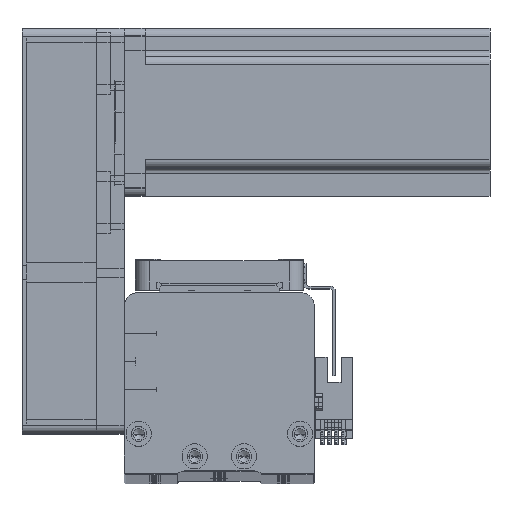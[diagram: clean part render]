
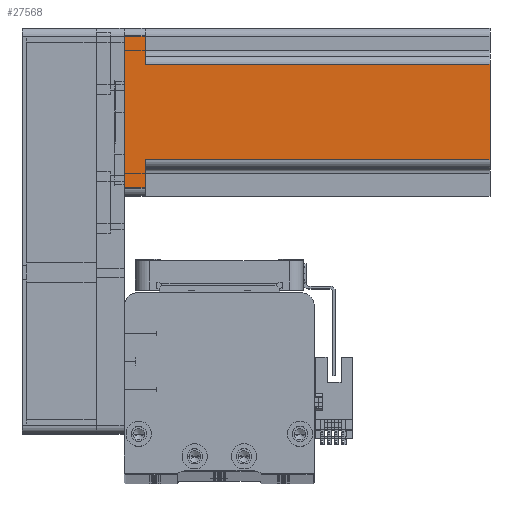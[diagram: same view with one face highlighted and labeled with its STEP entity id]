
A CAD part, top view. The second image highlights one B-rep face of the part: STEP entity #27568.
In plain terms, the highlighted planar face has unit normal (0, 0, 1) as drawn and (0, 1, 0) by its records, which use the part's own axes.
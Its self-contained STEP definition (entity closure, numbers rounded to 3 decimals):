
#301 = DIRECTION ( 'NONE',  ( 0., -1., 0. ) ) ;
#1090 = ORIENTED_EDGE ( 'NONE', *, *, #31192, .T. ) ;
#1931 = EDGE_CURVE ( 'NONE', #50247, #53236, #3249, .T. ) ;
#1942 = DIRECTION ( 'NONE',  ( 0., 0., -1. ) ) ;
#2790 = CARTESIAN_POINT ( 'NONE',  ( 17., 30., 7.5 ) ) ;
#2945 = VERTEX_POINT ( 'NONE', #42229 ) ;
#2991 = VECTOR ( 'NONE', #52756, 1000. ) ;
#3249 = LINE ( 'NONE', #33573, #25994 ) ;
#5393 = VERTEX_POINT ( 'NONE', #32294 ) ;
#6594 = ORIENTED_EDGE ( 'NONE', *, *, #27188, .F. ) ;
#7925 = VERTEX_POINT ( 'NONE', #2790 ) ;
#8121 = ORIENTED_EDGE ( 'NONE', *, *, #1931, .T. ) ;
#11695 = DIRECTION ( 'NONE',  ( 0., 0., 1. ) ) ;
#12819 = DIRECTION ( 'NONE',  ( -1., 0., 0. ) ) ;
#14370 = LINE ( 'NONE', #26996, #2991 ) ;
#14561 = CARTESIAN_POINT ( 'NONE',  ( 30., 30., 130.7 ) ) ;
#17991 = VECTOR ( 'NONE', #41605, 1000. ) ;
#20079 = LINE ( 'NONE', #21422, #53002 ) ;
#20801 = LINE ( 'NONE', #41507, #30821 ) ;
#21422 = CARTESIAN_POINT ( 'NONE',  ( 30., 30., 0. ) ) ;
#21916 = FACE_OUTER_BOUND ( 'NONE', #28031, .T. ) ;
#22005 = LINE ( 'NONE', #45766, #17991 ) ;
#22881 = VERTEX_POINT ( 'NONE', #29678 ) ;
#25932 = CARTESIAN_POINT ( 'NONE',  ( 30., 30., 130.7 ) ) ;
#25973 = DIRECTION ( 'NONE',  ( -1., 0., 0. ) ) ;
#25994 = VECTOR ( 'NONE', #33398, 1000. ) ;
#26001 = VECTOR ( 'NONE', #25973, 1000. ) ;
#26809 = CARTESIAN_POINT ( 'NONE',  ( -27., 30., 7.5 ) ) ;
#26996 = CARTESIAN_POINT ( 'NONE',  ( 17., 30., 130.7 ) ) ;
#27188 = EDGE_CURVE ( 'NONE', #22881, #50699, #43464, .T. ) ;
#27568 = ADVANCED_FACE ( 'NONE', ( #21916 ), #34350, .F. ) ;
#28031 = EDGE_LOOP ( 'NONE', ( #8121, #31132, #6594, #30268, #44202, #1090, #50830, #45526 ) ) ;
#28277 = CARTESIAN_POINT ( 'NONE',  ( -17., 30., 7.5 ) ) ;
#29614 = VERTEX_POINT ( 'NONE', #41614 ) ;
#29678 = CARTESIAN_POINT ( 'NONE',  ( 17., 30., 130.7 ) ) ;
#30212 = DIRECTION ( 'NONE',  ( 1., 0., 0. ) ) ;
#30268 = ORIENTED_EDGE ( 'NONE', *, *, #50274, .T. ) ;
#30821 = VECTOR ( 'NONE', #11695, 1000. ) ;
#31132 = ORIENTED_EDGE ( 'NONE', *, *, #48704, .T. ) ;
#31192 = EDGE_CURVE ( 'NONE', #5393, #29614, #43008, .T. ) ;
#31871 = CARTESIAN_POINT ( 'NONE',  ( 27., 30., 130.7 ) ) ;
#32294 = CARTESIAN_POINT ( 'NONE',  ( 27., 30., 7.5 ) ) ;
#33398 = DIRECTION ( 'NONE',  ( 1., 0., 0. ) ) ;
#33573 = CARTESIAN_POINT ( 'NONE',  ( -20., 30., 7.5 ) ) ;
#34350 = PLANE ( 'NONE',  #48137 ) ;
#37450 = LINE ( 'NONE', #43054, #26001 ) ;
#37816 = EDGE_CURVE ( 'NONE', #2945, #50247, #20801, .T. ) ;
#41507 = CARTESIAN_POINT ( 'NONE',  ( -27., 30., 130.7 ) ) ;
#41605 = DIRECTION ( 'NONE',  ( 0., 0., 1. ) ) ;
#41614 = CARTESIAN_POINT ( 'NONE',  ( 27., 30., 0. ) ) ;
#42229 = CARTESIAN_POINT ( 'NONE',  ( -27., 30., 0. ) ) ;
#43008 = LINE ( 'NONE', #31871, #54428 ) ;
#43054 = CARTESIAN_POINT ( 'NONE',  ( 20., 30., 7.5 ) ) ;
#43464 = LINE ( 'NONE', #14561, #53554 ) ;
#44202 = ORIENTED_EDGE ( 'NONE', *, *, #53949, .F. ) ;
#44551 = DIRECTION ( 'NONE',  ( -1., 0., 0. ) ) ;
#45526 = ORIENTED_EDGE ( 'NONE', *, *, #37816, .T. ) ;
#45766 = CARTESIAN_POINT ( 'NONE',  ( -17., 30., 130.7 ) ) ;
#46078 = CARTESIAN_POINT ( 'NONE',  ( -17., 30., 130.7 ) ) ;
#48137 = AXIS2_PLACEMENT_3D ( 'NONE', #25932, #301, #30212 ) ;
#48375 = EDGE_CURVE ( 'NONE', #29614, #2945, #20079, .T. ) ;
#48704 = EDGE_CURVE ( 'NONE', #53236, #50699, #22005, .T. ) ;
#50247 = VERTEX_POINT ( 'NONE', #26809 ) ;
#50274 = EDGE_CURVE ( 'NONE', #22881, #7925, #14370, .T. ) ;
#50699 = VERTEX_POINT ( 'NONE', #46078 ) ;
#50830 = ORIENTED_EDGE ( 'NONE', *, *, #48375, .T. ) ;
#52756 = DIRECTION ( 'NONE',  ( 0., 0., -1. ) ) ;
#53002 = VECTOR ( 'NONE', #12819, 1000. ) ;
#53236 = VERTEX_POINT ( 'NONE', #28277 ) ;
#53554 = VECTOR ( 'NONE', #44551, 1000. ) ;
#53949 = EDGE_CURVE ( 'NONE', #5393, #7925, #37450, .T. ) ;
#54428 = VECTOR ( 'NONE', #1942, 1000. ) ;
